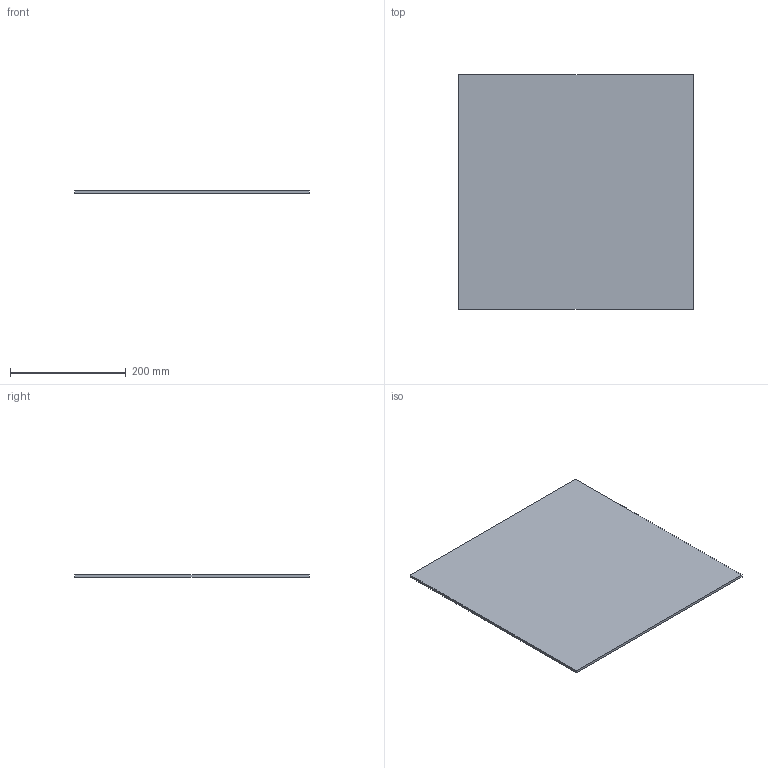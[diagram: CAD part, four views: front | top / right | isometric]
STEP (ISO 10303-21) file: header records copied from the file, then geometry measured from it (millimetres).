
FILE_DESCRIPTION (( 'STEP AP203' ), '1' );
FILE_NAME ('Plexiglass.STEP', '2025-03-11T00:33:59', ( '' ), ( '' ), 'SwSTEP 2.0', 'SolidWorks 2024', '' );
FILE_SCHEMA (( 'CONFIG_CONTROL_DESIGN' ));
Length unit declared in the file: millimetre
Products named in the file (1): Plexiglass
Bounding box: 406.4 x 406.4 x 4.5 mm (x, y, z)
Volume: 743224.3 mm3; surface area: 337637.1 mm2
Topology: 1 solids, 1 shells, 6 faces, 12 edges, 8 vertices
Faces by surface type: plane 6
Entity records: 231 total; most frequent: CARTESIAN_POINT 27, DIRECTION 26, ORIENTED_EDGE 24, LINE 12, EDGE_CURVE 12, VECTOR 12, PERSON_AND_ORGANIZATION 8, VERTEX_POINT 8
